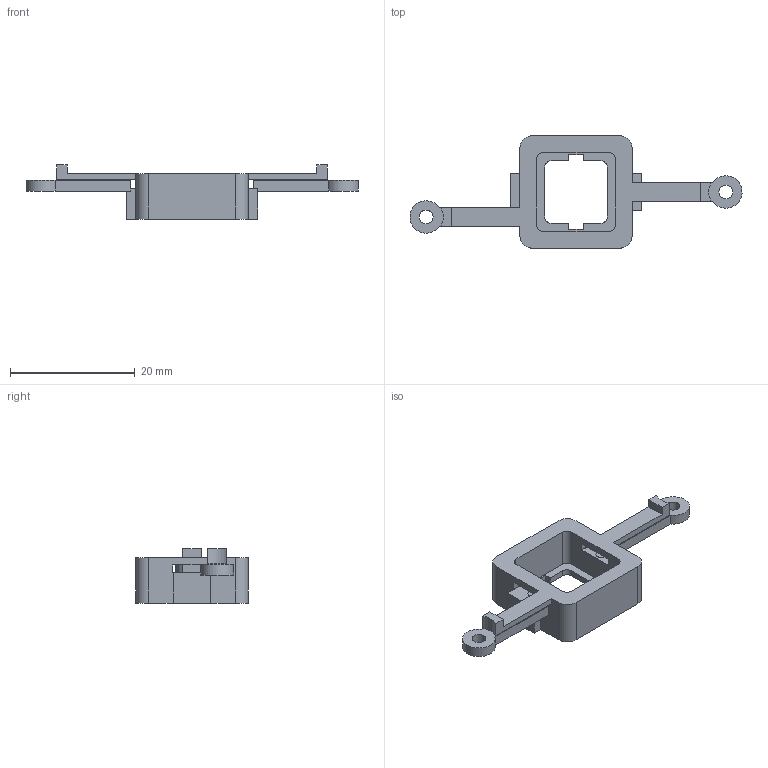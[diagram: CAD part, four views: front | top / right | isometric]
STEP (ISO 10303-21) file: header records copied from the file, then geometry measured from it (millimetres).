
FILE_DESCRIPTION(('Open CASCADE Model'),'2;1');
FILE_NAME('Open CASCADE Shape Model','2026-09-08T16:17:06',('Author'),( 'Open CASCADE'),'Open CASCADE STEP processor 7.7','Open CASCADE 7.7' ,'Unknown');
FILE_SCHEMA(('AUTOMOTIVE_DESIGN { 1 0 10303 214 1 1 1 1 }'));
Length unit declared in the file: millimetre
Products named in the file (1): Open CASCADE STEP translator 7.7 36
Bounding box: 53.18 x 18 x 8.7 mm (x, y, z)
Volume: 1552.4 mm3; surface area: 1986.2 mm2
Topology: 1 solids, 1 shells, 83 faces, 240 edges, 160 vertices
Faces by surface type: plane 63, cylinder 20
Full cylindrical faces by diameter (mm): 1.7 x2, 2.2 x2
Entity records: 5804 total; most frequent: CARTESIAN_POINT 1123, DIRECTION 824, LINE 547, VECTOR 547, ORIENTED_EDGE 480, PCURVE 480, DEFINITIONAL_REPRESENTATION 480, EDGE_CURVE 240
